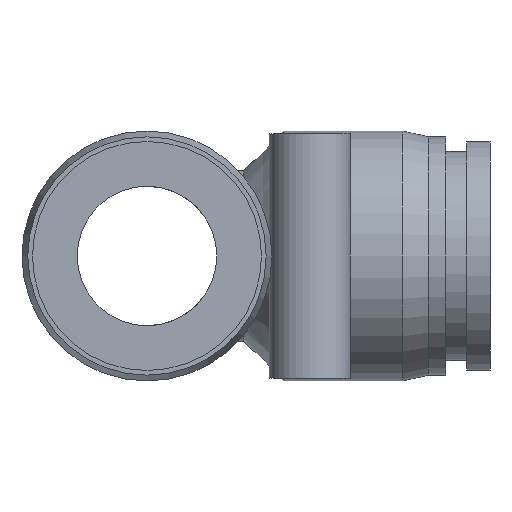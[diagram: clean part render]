
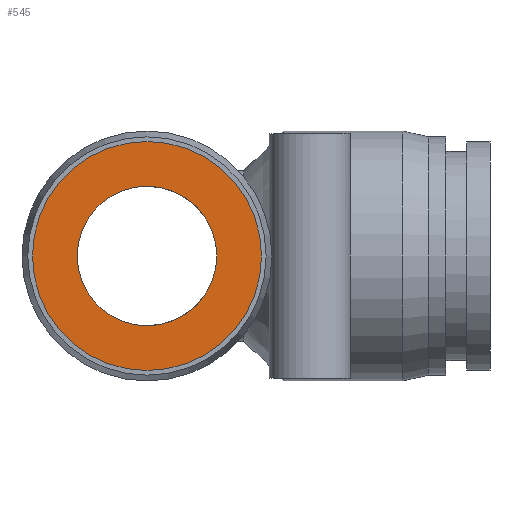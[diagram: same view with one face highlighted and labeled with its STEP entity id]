
A CAD part, left-side view. The second image highlights one B-rep face of the part: STEP entity #545.
In plain terms, the highlighted planar face has unit normal (-1, 0, 0).
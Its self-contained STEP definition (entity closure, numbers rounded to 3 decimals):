
#125=CARTESIAN_POINT('',(-29.5,-6.,0.));
#126=VERTEX_POINT('',#125);
#127=CARTESIAN_POINT('',(-29.5,0.0,0.0));
#128=DIRECTION('',(1.0,0.0,0.0));
#129=DIRECTION('',(0.0,1.0,0.0));
#130=AXIS2_PLACEMENT_3D('',#127,#128,#129);
#131=CIRCLE('',#130,6.);
#132=EDGE_CURVE('',#126,#126,#131,.T.);
#526=CARTESIAN_POINT('',(-29.5,4.925,0.0));
#527=DIRECTION('',(-1.0,0.0,0.0));
#528=DIRECTION('',(0.0,0.0,1.0));
#529=AXIS2_PLACEMENT_3D('',#526,#527,#528);
#530=PLANE('',#529);
#531=CARTESIAN_POINT('',(-29.5,9.85,0.0));
#532=VERTEX_POINT('',#531);
#533=CARTESIAN_POINT('',(-29.5,0.0,0.0));
#534=DIRECTION('',(1.0,0.0,0.0));
#535=DIRECTION('',(0.0,1.0,0.0));
#536=AXIS2_PLACEMENT_3D('',#533,#534,#535);
#537=CIRCLE('',#536,9.85);
#538=EDGE_CURVE('',#532,#532,#537,.T.);
#539=ORIENTED_EDGE('',*,*,#538,.F.);
#540=EDGE_LOOP('',(#539));
#541=FACE_OUTER_BOUND('',#540,.T.);
#542=ORIENTED_EDGE('',*,*,#132,.T.);
#543=EDGE_LOOP('',(#542));
#544=FACE_BOUND('',#543,.T.);
#545=ADVANCED_FACE('',(#541,#544),#530,.T.);
